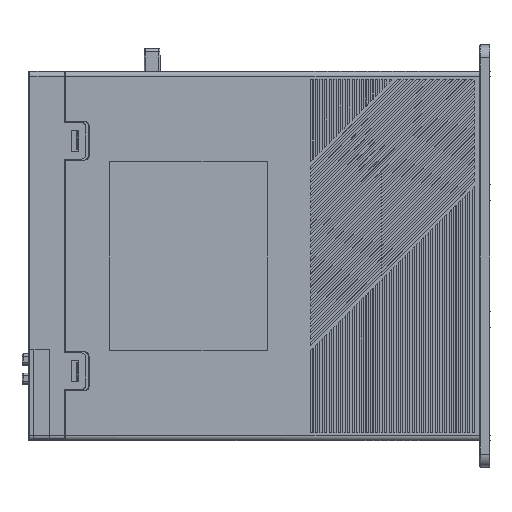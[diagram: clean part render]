
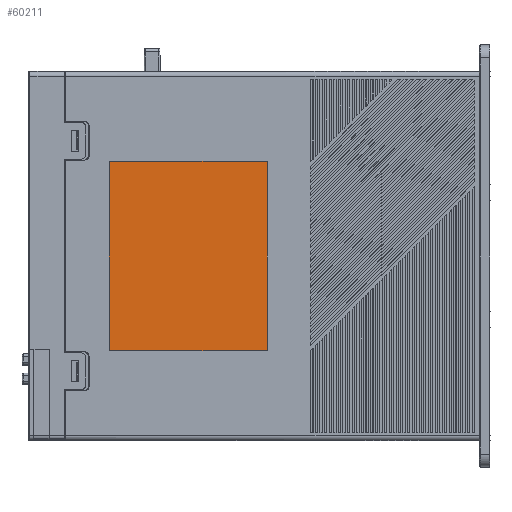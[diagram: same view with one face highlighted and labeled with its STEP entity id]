
A CAD part, left-side view. The second image highlights one B-rep face of the part: STEP entity #60211.
In plain terms, the highlighted planar face has unit normal (-1, 0, 0) as drawn and (0, 0, 1) by its records, which use the part's own axes.
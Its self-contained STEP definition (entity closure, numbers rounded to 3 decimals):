
#48152=CARTESIAN_POINT('',(-40.5,159.5,-0.3));
#48153=DIRECTION('',(0.,0.,-1.));
#48154=DIRECTION('',(-1.,0.,0.));
#48155=AXIS2_PLACEMENT_3D('',#48152,#48153,#48154);
#48157=DIRECTION('',(1.,0.,0.));
#48158=VECTOR('',#48157,81.);
#48159=CARTESIAN_POINT('',(-40.5,160.,-0.3));
#48160=LINE('',#48159,#48158);
#48161=CARTESIAN_POINT('',(40.5,159.5,-0.3));
#48162=DIRECTION('',(0.,0.,-1.));
#48163=DIRECTION('',(0.,1.,0.));
#48164=AXIS2_PLACEMENT_3D('',#48161,#48162,#48163);
#48166=DIRECTION('',(0.,-1.,0.));
#48167=VECTOR('',#48166,67.5);
#48168=CARTESIAN_POINT('',(41.,159.5,-0.3));
#48169=LINE('',#48168,#48167);
#48170=CARTESIAN_POINT('',(40.5,92.,-0.3));
#48171=DIRECTION('',(0.,0.,-1.));
#48172=DIRECTION('',(1.,0.,0.));
#48173=AXIS2_PLACEMENT_3D('',#48170,#48171,#48172);
#48175=DIRECTION('',(-1.,0.,0.));
#48176=VECTOR('',#48175,81.);
#48177=CARTESIAN_POINT('',(40.5,91.5,-0.3));
#48178=LINE('',#48177,#48176);
#48179=CARTESIAN_POINT('',(-40.5,92.,-0.3));
#48180=DIRECTION('',(0.,0.,-1.));
#48181=DIRECTION('',(0.,-1.,0.));
#48182=AXIS2_PLACEMENT_3D('',#48179,#48180,#48181);
#48184=DIRECTION('',(0.,1.,0.));
#48185=VECTOR('',#48184,67.5);
#48186=CARTESIAN_POINT('',(-41.,92.,-0.3));
#48187=LINE('',#48186,#48185);
#49956=CARTESIAN_POINT('',(41.,159.5,-0.3));
#49957=VERTEX_POINT('',#49956);
#49958=CARTESIAN_POINT('',(41.,92.,-0.3));
#49959=VERTEX_POINT('',#49958);
#49960=CARTESIAN_POINT('',(40.5,160.,-0.3));
#49961=VERTEX_POINT('',#49960);
#49962=CARTESIAN_POINT('',(-41.,159.5,-0.3));
#49963=CARTESIAN_POINT('',(-40.5,160.,-0.3));
#49964=VERTEX_POINT('',#49962);
#49965=VERTEX_POINT('',#49963);
#49966=CARTESIAN_POINT('',(40.5,91.5,-0.3));
#49967=VERTEX_POINT('',#49966);
#49968=CARTESIAN_POINT('',(-40.5,91.5,-0.3));
#49969=VERTEX_POINT('',#49968);
#49970=CARTESIAN_POINT('',(-41.,92.,-0.3));
#49971=VERTEX_POINT('',#49970);
#60190=CARTESIAN_POINT('',(0.,0.,-0.3));
#60191=DIRECTION('',(0.,0.,1.));
#60192=DIRECTION('',(1.,0.,0.));
#60193=AXIS2_PLACEMENT_3D('',#60190,#60191,#60192);
#60194=PLANE('',#60193);
#60196=ORIENTED_EDGE('',*,*,#60195,.T.);
#60198=ORIENTED_EDGE('',*,*,#60197,.T.);
#60199=ORIENTED_EDGE('',*,*,#60181,.T.);
#60200=ORIENTED_EDGE('',*,*,#60171,.T.);
#60202=ORIENTED_EDGE('',*,*,#60201,.T.);
#60204=ORIENTED_EDGE('',*,*,#60203,.T.);
#60206=ORIENTED_EDGE('',*,*,#60205,.T.);
#60208=ORIENTED_EDGE('',*,*,#60207,.T.);
#60209=EDGE_LOOP('',(#60196,#60198,#60199,#60200,#60202,#60204,#60206,#60208));
#60210=FACE_OUTER_BOUND('',#60209,.F.);
#60211=ADVANCED_FACE('',(#60210),#60194,.T.);
#48156=CIRCLE('',#48155,0.5);
#48165=CIRCLE('',#48164,0.5);
#48174=CIRCLE('',#48173,0.5);
#48183=CIRCLE('',#48182,0.5);
#60171=EDGE_CURVE('',#49957,#49959,#48169,.T.);
#60181=EDGE_CURVE('',#49961,#49957,#48165,.T.);
#60195=EDGE_CURVE('',#49964,#49965,#48156,.T.);
#60197=EDGE_CURVE('',#49965,#49961,#48160,.T.);
#60201=EDGE_CURVE('',#49959,#49967,#48174,.T.);
#60203=EDGE_CURVE('',#49967,#49969,#48178,.T.);
#60205=EDGE_CURVE('',#49969,#49971,#48183,.T.);
#60207=EDGE_CURVE('',#49971,#49964,#48187,.T.);
